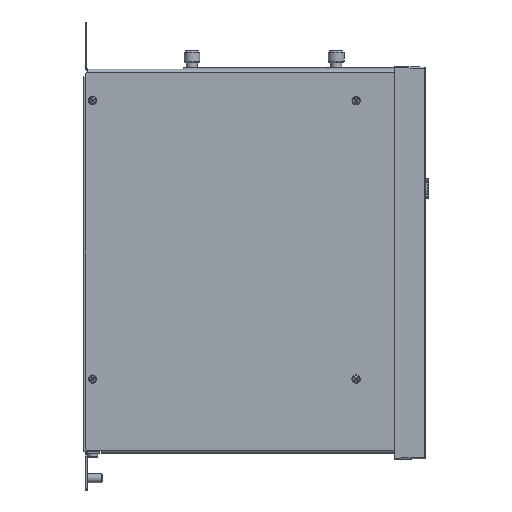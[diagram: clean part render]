
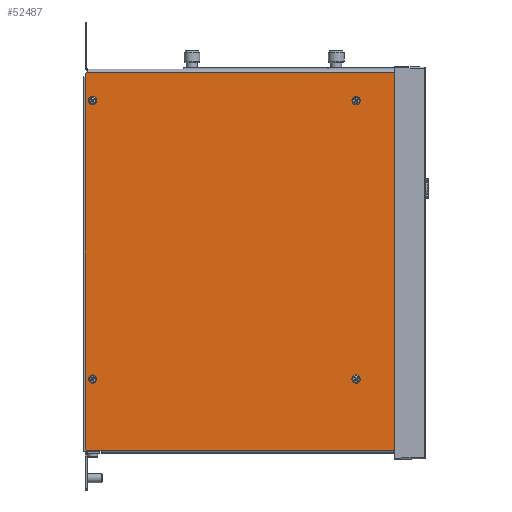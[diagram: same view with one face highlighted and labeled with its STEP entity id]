
A CAD part, left-side view. The second image highlights one B-rep face of the part: STEP entity #52487.
In plain terms, the highlighted planar face has unit normal (-1, 0, 0).
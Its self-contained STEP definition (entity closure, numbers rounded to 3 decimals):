
#1591=CIRCLE('',#55941,2.8);
#1592=CIRCLE('',#55942,2.8);
#1593=CIRCLE('',#55943,2.8);
#1594=CIRCLE('',#55944,2.8);
#2264=FACE_BOUND('',#6801,.T.);
#2265=FACE_BOUND('',#6802,.T.);
#2266=FACE_BOUND('',#6803,.T.);
#2267=FACE_BOUND('',#6804,.T.);
#3702=FACE_OUTER_BOUND('',#6800,.T.);
#6800=EDGE_LOOP('',(#38690,#38691,#38692,#38693,#38694,#38695));
#6801=EDGE_LOOP('',(#38696));
#6802=EDGE_LOOP('',(#38697));
#6803=EDGE_LOOP('',(#38698));
#6804=EDGE_LOOP('',(#38699));
#10675=LINE('',#76508,#16432);
#11148=LINE('',#78175,#16905);
#11158=LINE('',#78194,#16915);
#11706=LINE('',#79450,#17463);
#11707=LINE('',#79453,#17464);
#11708=LINE('',#79454,#17465);
#16432=VECTOR('',#62654,257.2);
#16905=VECTOR('',#63989,255.2);
#16915=VECTOR('',#64003,1.414);
#17463=VECTOR('',#64653,209.2);
#17464=VECTOR('',#64656,209.2);
#17465=VECTOR('',#64657,1.414);
#21865=VERTEX_POINT('',#76505);
#21866=VERTEX_POINT('',#76507);
#22300=VERTEX_POINT('',#78172);
#22301=VERTEX_POINT('',#78174);
#22308=VERTEX_POINT('',#78192);
#22838=VERTEX_POINT('',#79452);
#22839=VERTEX_POINT('',#79455);
#22840=VERTEX_POINT('',#79457);
#22841=VERTEX_POINT('',#79459);
#22842=VERTEX_POINT('',#79461);
#27407=EDGE_CURVE('',#21866,#21865,#10675,.T.);
#28081=EDGE_CURVE('',#22300,#22301,#11148,.T.);
#28091=EDGE_CURVE('',#22308,#22300,#11158,.T.);
#28664=EDGE_CURVE('',#21866,#22308,#11706,.T.);
#28665=EDGE_CURVE('',#22838,#21865,#11707,.T.);
#28666=EDGE_CURVE('',#22301,#22838,#11708,.T.);
#28667=EDGE_CURVE('',#22839,#22839,#1591,.T.);
#28668=EDGE_CURVE('',#22840,#22840,#1592,.T.);
#28669=EDGE_CURVE('',#22841,#22841,#1593,.T.);
#28670=EDGE_CURVE('',#22842,#22842,#1594,.T.);
#38690=ORIENTED_EDGE('',*,*,#27407,.T.);
#38691=ORIENTED_EDGE('',*,*,#28665,.F.);
#38692=ORIENTED_EDGE('',*,*,#28666,.F.);
#38693=ORIENTED_EDGE('',*,*,#28081,.F.);
#38694=ORIENTED_EDGE('',*,*,#28091,.F.);
#38695=ORIENTED_EDGE('',*,*,#28664,.F.);
#38696=ORIENTED_EDGE('',*,*,#28667,.T.);
#38697=ORIENTED_EDGE('',*,*,#28668,.T.);
#38698=ORIENTED_EDGE('',*,*,#28669,.T.);
#38699=ORIENTED_EDGE('',*,*,#28670,.T.);
#47121=PLANE('',#55940);
#52487=ADVANCED_FACE('',(#3702,#2264,#2265,#2266,#2267),#47121,.F.);
#55940=AXIS2_PLACEMENT_3D('',#79451,#64654,#64655);
#55941=AXIS2_PLACEMENT_3D('',#79456,#64658,#64659);
#55942=AXIS2_PLACEMENT_3D('',#79458,#64660,#64661);
#55943=AXIS2_PLACEMENT_3D('',#79460,#64662,#64663);
#55944=AXIS2_PLACEMENT_3D('',#79462,#64664,#64665);
#62654=DIRECTION('',(0.,0.,1.));
#63989=DIRECTION('',(0.,0.,1.));
#64003=DIRECTION('',(0.,0.707,0.707));
#64653=DIRECTION('',(0.,1.,0.));
#64654=DIRECTION('center_axis',(1.,0.,0.));
#64655=DIRECTION('ref_axis',(0.,0.,-1.));
#64656=DIRECTION('',(0.,-1.,0.));
#64657=DIRECTION('',(0.,-0.707,0.707));
#64658=DIRECTION('center_axis',(1.,0.,0.));
#64659=DIRECTION('ref_axis',(0.,-0.569,-0.823));
#64660=DIRECTION('center_axis',(1.,0.,0.));
#64661=DIRECTION('ref_axis',(0.,-0.569,-0.823));
#64662=DIRECTION('center_axis',(1.,0.,0.));
#64663=DIRECTION('ref_axis',(0.,-0.569,-0.823));
#64664=DIRECTION('center_axis',(1.,0.,0.));
#64665=DIRECTION('ref_axis',(0.,-0.569,-0.823));
#76505=CARTESIAN_POINT('',(-43.1,-211.2,227.2));
#76507=CARTESIAN_POINT('',(-43.1,-211.2,-30.));
#76508=CARTESIAN_POINT('',(-43.1,-211.2,33.575));
#78172=CARTESIAN_POINT('',(-43.1,-1.,-29.));
#78174=CARTESIAN_POINT('',(-43.1,-1.,226.2));
#78175=CARTESIAN_POINT('',(-43.1,-1.,-30.));
#78192=CARTESIAN_POINT('',(-43.1,-2.,-30.));
#78194=CARTESIAN_POINT('',(-43.1,3.6,-24.4));
#79450=CARTESIAN_POINT('',(-43.1,-219.4,-30.));
#79451=CARTESIAN_POINT('Origin',(-43.1,-110.2,99.6));
#79452=CARTESIAN_POINT('',(-43.1,-2.,227.2));
#79453=CARTESIAN_POINT('',(-43.1,-164.8,227.2));
#79454=CARTESIAN_POINT('',(-43.1,3.1,222.1));
#79455=CARTESIAN_POINT('',(-43.1,-7.593,205.497));
#79456=CARTESIAN_POINT('Origin',(-43.1,-6.,207.8));
#79457=CARTESIAN_POINT('',(-43.1,-7.593,16.497));
#79458=CARTESIAN_POINT('Origin',(-43.1,-6.,18.8));
#79459=CARTESIAN_POINT('',(-43.1,-186.593,205.497));
#79460=CARTESIAN_POINT('Origin',(-43.1,-185.,207.8));
#79461=CARTESIAN_POINT('',(-43.1,-186.593,16.497));
#79462=CARTESIAN_POINT('Origin',(-43.1,-185.,18.8));
